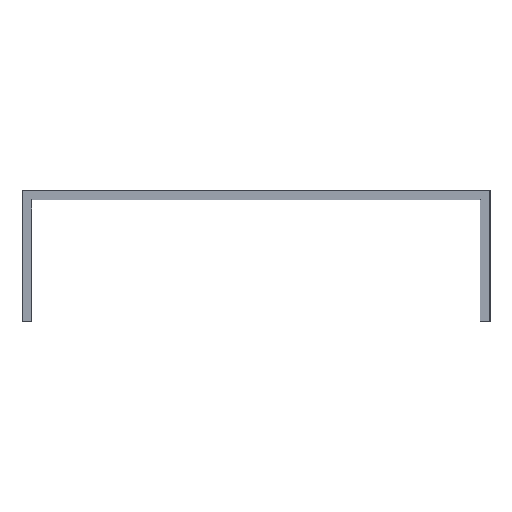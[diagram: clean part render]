
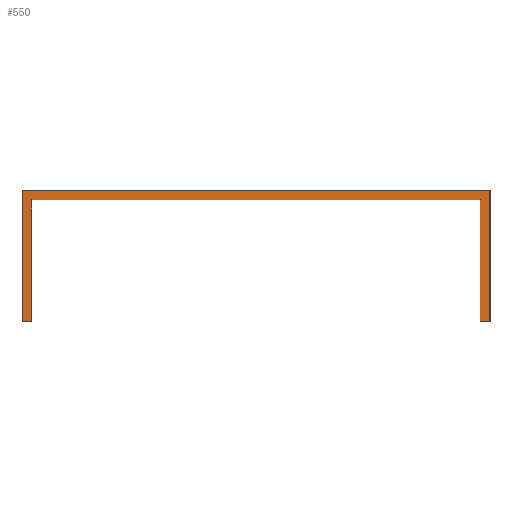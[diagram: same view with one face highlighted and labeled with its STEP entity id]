
A CAD part, left-side view. The second image highlights one B-rep face of the part: STEP entity #550.
In plain terms, the highlighted planar face has unit normal (-1, 0, 0).
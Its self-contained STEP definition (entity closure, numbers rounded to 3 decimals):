
#550=ADVANCED_FACE('',(#975),#976,.T.);
#975=FACE_OUTER_BOUND('',#1517,.T.);
#976=PLANE('',#1518);
#1517=EDGE_LOOP('',(#2100,#2101,#2102,#2103,#2104,#2105,#2106,#2107,#2108,#2109,#2110,#2111));
#1518=AXIS2_PLACEMENT_3D('',#2112,#2113,#2114);
#2100=ORIENTED_EDGE('',*,*,#2540,.T.);
#2101=ORIENTED_EDGE('',*,*,#2536,.T.);
#2102=ORIENTED_EDGE('',*,*,#2532,.T.);
#2103=ORIENTED_EDGE('',*,*,#2528,.T.);
#2104=ORIENTED_EDGE('',*,*,#2504,.T.);
#2105=ORIENTED_EDGE('',*,*,#2440,.T.);
#2106=ORIENTED_EDGE('',*,*,#2436,.F.);
#2107=ORIENTED_EDGE('',*,*,#2443,.F.);
#2108=ORIENTED_EDGE('',*,*,#2511,.T.);
#2109=ORIENTED_EDGE('',*,*,#2524,.T.);
#2110=ORIENTED_EDGE('',*,*,#2520,.T.);
#2111=ORIENTED_EDGE('',*,*,#2516,.T.);
#2112=CARTESIAN_POINT('',(0.,24.0,10.551));
#2113=DIRECTION('',(-1.0,0.0,0.));
#2114=DIRECTION('',(0.,0.0,1.0));
#2436=EDGE_CURVE('',#2830,#2832,#2833,.T.);
#2440=EDGE_CURVE('',#2836,#2832,#2838,.T.);
#2443=EDGE_CURVE('',#2840,#2830,#2843,.T.);
#2504=EDGE_CURVE('',#2930,#2836,#2931,.T.);
#2511=EDGE_CURVE('',#2840,#2939,#2941,.T.);
#2516=EDGE_CURVE('',#2949,#2947,#2950,.T.);
#2520=EDGE_CURVE('',#2955,#2949,#2956,.T.);
#2524=EDGE_CURVE('',#2939,#2955,#2960,.T.);
#2528=EDGE_CURVE('',#2965,#2930,#2966,.T.);
#2532=EDGE_CURVE('',#2971,#2965,#2972,.T.);
#2536=EDGE_CURVE('',#2977,#2971,#2978,.T.);
#2540=EDGE_CURVE('',#2947,#2977,#2982,.T.);
#2830=VERTEX_POINT('',#3142);
#2832=VERTEX_POINT('',#3144);
#2833=LINE('',#3145,#3146);
#2836=VERTEX_POINT('',#3149);
#2838=LINE('',#3151,#3152);
#2840=VERTEX_POINT('',#3154);
#2843=LINE('',#3157,#3158);
#2930=VERTEX_POINT('',#3278);
#2931=LINE('',#3279,#3280);
#2939=VERTEX_POINT('',#3291);
#2941=LINE('',#3294,#3295);
#2947=VERTEX_POINT('',#3302);
#2949=VERTEX_POINT('',#3305);
#2950=LINE('',#3306,#3307);
#2955=VERTEX_POINT('',#3314);
#2956=LINE('',#3315,#3316);
#2960=LINE('',#3322,#3323);
#2965=VERTEX_POINT('',#3329);
#2966=LINE('',#3330,#3331);
#2971=VERTEX_POINT('',#3338);
#2972=LINE('',#3339,#3340);
#2977=VERTEX_POINT('',#3347);
#2978=LINE('',#3348,#3349);
#2982=LINE('',#3355,#3356);
#3142=CARTESIAN_POINT('',(0.,1.003,12.495));
#3144=CARTESIAN_POINT('',(0.,1.005,12.495));
#3145=CARTESIAN_POINT('',(0.,1.003,12.495));
#3146=VECTOR('',#3474,1.0);
#3149=CARTESIAN_POINT('',(0.,1.005,12.5));
#3151=CARTESIAN_POINT('',(0.,1.005,12.5));
#3152=VECTOR('',#3481,1.0);
#3154=CARTESIAN_POINT('',(0.,1.003,12.5));
#3157=CARTESIAN_POINT('',(0.,1.003,12.5));
#3158=VECTOR('',#3485,1.0);
#3278=CARTESIAN_POINT('',(0.,47.0,12.5));
#3279=CARTESIAN_POINT('',(0.,47.0,12.5));
#3280=VECTOR('',#3549,1.0);
#3291=CARTESIAN_POINT('',(0.,1.0,12.5));
#3294=CARTESIAN_POINT('',(0.,47.0,12.5));
#3295=VECTOR('',#3554,1.0);
#3302=CARTESIAN_POINT('',(0.,0.0,13.5));
#3305=CARTESIAN_POINT('',(0.,0.0,0.0));
#3306=CARTESIAN_POINT('',(0.,0.0,0.0));
#3307=VECTOR('',#3557,1.0);
#3314=CARTESIAN_POINT('',(0.,1.0,0.0));
#3315=CARTESIAN_POINT('',(0.,1.0,0.0));
#3316=VECTOR('',#3560,1.0);
#3322=CARTESIAN_POINT('',(0.,1.0,12.5));
#3323=VECTOR('',#3563,1.0);
#3329=CARTESIAN_POINT('',(0.,47.0,0.0));
#3330=CARTESIAN_POINT('',(0.,47.0,0.0));
#3331=VECTOR('',#3565,1.0);
#3338=CARTESIAN_POINT('',(0.,48.0,0.0));
#3339=CARTESIAN_POINT('',(0.,48.0,0.0));
#3340=VECTOR('',#3568,1.0);
#3347=CARTESIAN_POINT('',(0.,48.0,13.5));
#3348=CARTESIAN_POINT('',(0.,48.0,13.5));
#3349=VECTOR('',#3571,1.0);
#3355=CARTESIAN_POINT('',(0.,0.0,13.5));
#3356=VECTOR('',#3574,1.0);
#3474=DIRECTION('',(0.,1.0,0.));
#3481=DIRECTION('',(0.,0.,-1.0));
#3485=DIRECTION('',(0.,0.,-1.0));
#3549=DIRECTION('',(0.0,-1.0,0.0));
#3554=DIRECTION('',(0.0,-1.0,0.0));
#3557=DIRECTION('',(0.,0.0,1.0));
#3560=DIRECTION('',(0.0,-1.0,0.0));
#3563=DIRECTION('',(0.,0.0,-1.0));
#3565=DIRECTION('',(0.,0.0,1.0));
#3568=DIRECTION('',(0.0,-1.0,0.0));
#3571=DIRECTION('',(0.,0.0,-1.0));
#3574=DIRECTION('',(0.0,1.0,0.0));
